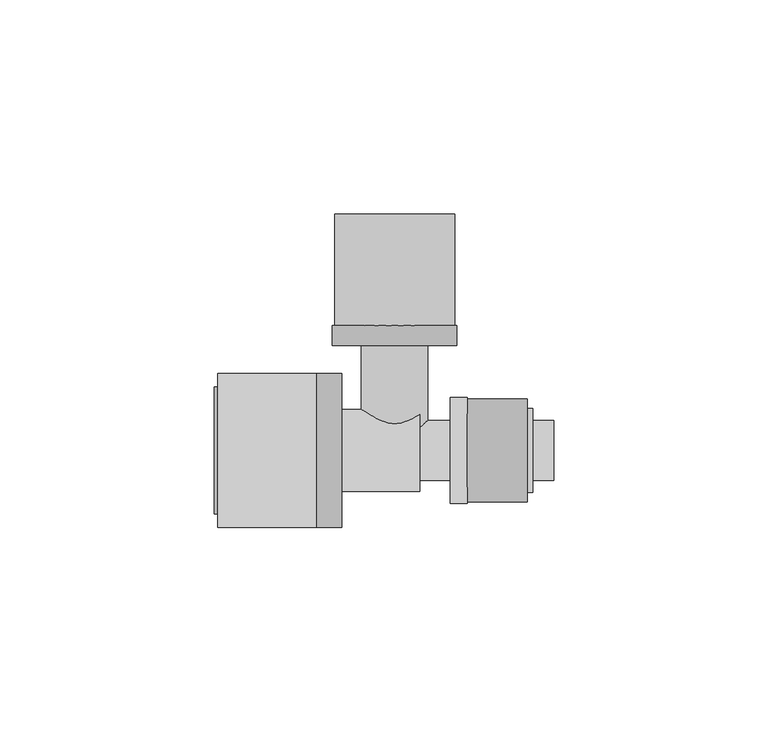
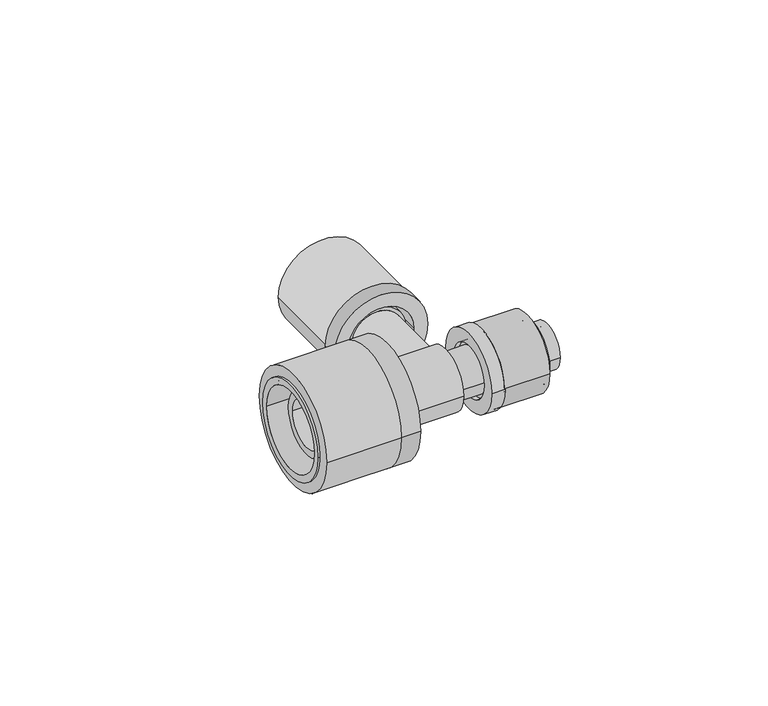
"""IFC4 building model written with IfcOpenShell, lengths in millimetres: pipe fitting geometry, FASTLOC_T-piece_LX : FSL T-Piece LX CZ."""

import ifcopenshell
import ifcopenshell.guid

model = None  # the IFC model being written
_history = None  # IfcOwnerHistory: only IFC2X3 demands one
_inside = {}  # id of a spatial element -> (the spatial element, [elements in it])
_under = {}  # id of a project, library or spatial element -> (it, [spatial elements below it])
_declared = {}  # id of a project -> (the project, [libraries it declares])
_typed = {}  # id of a type object -> (the type object, [elements of that type])
_made_of = {}  # id of a material, layer set ... -> (it, [elements and type objects made of it])


def new_model(schema):
    """Start an empty IFC model of exactly this schema.

    Asked for "IFC4X3", IfcOpenShell would pick the latest addendum, in which some entities
    have other attributes; the version numbers below select the first issue.
    IFC2X3 requires an IfcOwnerHistory on every rooted entity: one is made here for all.
    """
    global model, _history
    if schema == "IFC4X3":
        model = ifcopenshell.file(schema_version=(4, 3, 0, 0))
    else:
        model = ifcopenshell.file(schema=schema)
    _inside.clear()
    _under.clear()
    _declared.clear()
    _typed.clear()
    _made_of.clear()
    _history = None
    if model.schema == "IFC2X3":
        org = make("IfcOrganization", Name="unknown")
        user = make(
            "IfcPersonAndOrganization",
            ThePerson=make("IfcPerson", FamilyName="unknown"),
            TheOrganization=org,
        )
        app = make(
            "IfcApplication",
            ApplicationDeveloper=org,
            Version="unknown",
            ApplicationFullName="unknown",
            ApplicationIdentifier="unknown",
        )
        _history = make(
            "IfcOwnerHistory",
            OwningUser=user,
            OwningApplication=app,
            ChangeAction="ADDED",
            CreationDate=0,
        )
    return model


def make(cls, **values):
    """One entity of the class cls with the attributes given. An attribute that is None is left unset."""
    return model.create_entity(
        cls, **{name: value for name, value in values.items() if value is not None}
    )


def rooted(cls, **values):
    """An entity with a GlobalId (a new one), such as an element, a storey or a relation."""
    return make(cls, GlobalId=ifcopenshell.guid.new(), OwnerHistory=_history, **values)


def si_unit(unit_type, name, prefix=None):
    """IfcSIUnit, for example si_unit("LENGTHUNIT", "METRE", prefix="MILLI")."""
    return make("IfcSIUnit", UnitType=unit_type, Prefix=prefix, Name=name)


def assignment(units):
    """IfcUnitAssignment: the units of a project."""
    return None if units is None else make("IfcUnitAssignment", Units=units)


def point(xyz):
    """IfcCartesianPoint."""
    return None if xyz is None else make("IfcCartesianPoint", Coordinates=xyz)


def direction(xyz):
    """IfcDirection."""
    return None if xyz is None else make("IfcDirection", DirectionRatios=xyz)


def frame(location, z_axis=None, x_axis=None):
    """IfcAxis2Placement3D, a coordinate frame: its origin and axes. An axis left out is left unset."""
    return make(
        "IfcAxis2Placement3D",
        Location=point(location),
        Axis=direction(z_axis),
        RefDirection=direction(x_axis),
    )


def frame_2d(location, x_axis=None):
    """IfcAxis2Placement2D, a coordinate frame in the plane: its origin and x axis."""
    return make(
        "IfcAxis2Placement2D", Location=point(location), RefDirection=direction(x_axis)
    )


def origin():
    """The frame at (0, 0, 0) with its axes left unset."""
    return frame((0.0, 0.0, 0.0))


def origin_2d():
    """The frame at (0, 0) in the plane with its x axis left unset."""
    return frame_2d((0.0, 0.0))


def place(relative_to, where):
    """IfcLocalPlacement: puts the frame where relative to a parent placement (None: the world)."""
    return make(
        "IfcLocalPlacement", PlacementRelTo=relative_to, RelativePlacement=where
    )


def context(
    kind, dimensions, precision=None, world=None, true_north=None, identifier=None
):
    """IfcGeometricRepresentationContext, for example the 3D "Model" context."""
    return make(
        "IfcGeometricRepresentationContext",
        ContextIdentifier=identifier,
        ContextType=kind,
        CoordinateSpaceDimension=dimensions,
        Precision=precision,
        WorldCoordinateSystem=world,
        TrueNorth=true_north,
    )


def project(units=None, contexts=None):
    """IfcProject with its units and contexts."""
    return rooted(
        "IfcProject",
        Name="project",
        RepresentationContexts=contexts,
        UnitsInContext=assignment(units),
    )


def spatial(cls, under=None, at=None, **own):
    """A site, building, storey or space (cls), placed at a placement, below another one or the project."""
    s = rooted(cls, ObjectPlacement=at, **own)
    if under is not None:
        _under.setdefault(under.id(), (under, []))[1].append(s)
    return s


def polyline(points):
    """IfcPolyline through the points."""
    return make("IfcPolyline", Points=[point(p) for p in points])


def circle_curve(where, radius):
    """IfcCircle in the frame where."""
    return make("IfcCircle", Position=where, Radius=radius)


def trimmed(basis, trim1, trim2, sense, master):
    """IfcTrimmedCurve: the piece of a basis curve between two trims."""
    return make(
        "IfcTrimmedCurve",
        BasisCurve=basis,
        Trim1=trim1,
        Trim2=trim2,
        SenseAgreement=sense,
        MasterRepresentation=master,
    )


def segment(curve, same_sense, transition):
    """IfcCompositeCurveSegment."""
    return make(
        "IfcCompositeCurveSegment",
        Transition=transition,
        SameSense=same_sense,
        ParentCurve=curve,
    )


def composite_curve(segments, self_intersect=None):
    """IfcCompositeCurve: segments joined end to end."""
    return make("IfcCompositeCurve", Segments=segments, SelfIntersect=self_intersect)


def outline(outer, holes=None, kind="AREA"):
    """IfcArbitraryClosedProfileDef: a profile drawn as a closed curve; with holes, ...WithVoids."""
    if holes is None:
        return make("IfcArbitraryClosedProfileDef", ProfileType=kind, OuterCurve=outer)
    return make(
        "IfcArbitraryProfileDefWithVoids",
        ProfileType=kind,
        OuterCurve=outer,
        InnerCurves=holes,
    )


def extrude(swept, where, along, depth):
    """IfcExtrudedAreaSolid: the profile swept, set in the frame where, extruded along a direction by depth."""
    return make(
        "IfcExtrudedAreaSolid",
        SweptArea=swept,
        Position=where,
        ExtrudedDirection=direction(along),
        Depth=depth,
    )


def shape(context_of_items, identifier, shape_type, items):
    """IfcShapeRepresentation: the items that make up one representation, for example the "Body"."""
    return make(
        "IfcShapeRepresentation",
        ContextOfItems=context_of_items,
        RepresentationIdentifier=identifier,
        RepresentationType=shape_type,
        Items=items,
    )


def source(mapping_origin, context_of_items, identifier, shape_type, items):
    """IfcRepresentationMap: a shape defined once, which mapped items show again and again."""
    return make(
        "IfcRepresentationMap",
        MappingOrigin=mapping_origin,
        MappedRepresentation=shape(context_of_items, identifier, shape_type, items),
    )


def transform(
    local_origin,
    x_axis=None,
    y_axis=None,
    z_axis=None,
    scale=None,
    scale2=None,
    scale3=None,
    uniform=True,
):
    """IfcCartesianTransformationOperator3D, or its non-uniform kind. x_axis, y_axis, z_axis: its Axis1, 2, 3."""
    if uniform:
        return make(
            "IfcCartesianTransformationOperator3D",
            Axis1=direction(x_axis),
            Axis2=direction(y_axis),
            LocalOrigin=point(local_origin),
            Scale=scale,
            Axis3=direction(z_axis),
        )
    return make(
        "IfcCartesianTransformationOperator3DnonUniform",
        Axis1=direction(x_axis),
        Axis2=direction(y_axis),
        LocalOrigin=point(local_origin),
        Scale=scale,
        Axis3=direction(z_axis),
        Scale2=scale2,
        Scale3=scale3,
    )


def mapped(mapping_source, mapping_target):
    """IfcMappedItem: shows the shape of a source again, moved by a transform."""
    return make(
        "IfcMappedItem", MappingSource=mapping_source, MappingTarget=mapping_target
    )


def made_of(thing, what):
    """Note that an element or type object is made of a material, layer set ...; save() writes the relation."""
    if what is not None:
        _made_of.setdefault(what.id(), (what, []))[1].append(thing)
    return thing


def element(
    cls,
    number,
    at=None,
    inside=None,
    cuts=None,
    type_object=None,
    material=None,
    context=None,
    identifier="Body",
    shape_type=None,
    held_by="IfcProductDefinitionShape",
    body=None,
    shapes=None,
    **own,
):
    """One element of the class cls, such as IfcWall. Its Tag is "e" and its number.

    at: its placement. inside: the storey or other place that contains it. cuts: it is an
    opening in that element (IfcRelVoidsElement). A single representation is given by context,
    identifier, shape_type and body (its items); several are given by shapes. held_by: the class
    of the entity that holds the representations. save() writes the other relations.
    """
    e = rooted(cls, Tag="e%d" % number, ObjectPlacement=at, **own)
    if body is not None:
        shapes = [shape(context, identifier, shape_type, body)]
    if shapes is not None:
        e.Representation = make(held_by, Representations=shapes)
    if inside is not None:
        _inside.setdefault(inside.id(), (inside, []))[1].append(e)
    if cuts is not None:
        rooted(
            "IfcRelVoidsElement", RelatingBuildingElement=cuts, RelatedOpeningElement=e
        )
    if type_object is not None:
        _typed.setdefault(type_object.id(), (type_object, []))[1].append(e)
    return made_of(e, material)


def aggregate(whole, parts):
    """IfcRelAggregates: a whole, such as a stair, and the parts it consists of."""
    return rooted("IfcRelAggregates", RelatingObject=whole, RelatedObjects=parts)


def save(model, path):
    """Write the relations noted so far, then the file.

    IfcRelAggregates (storeys below a building ...), IfcRelContainedInSpatialStructure (elements
    in a storey), IfcRelDefinesByType, IfcRelAssociatesMaterial and IfcRelDeclares: one each for
    every whole, place, type object, material and project.
    """
    for whole, parts in _under.values():
        aggregate(whole, parts)
    for where, things in _inside.values():
        rooted(
            "IfcRelContainedInSpatialStructure",
            RelatedElements=things,
            RelatingStructure=where,
        )
    for kind, things in _typed.values():
        rooted("IfcRelDefinesByType", RelatedObjects=things, RelatingType=kind)
    for what, things in _made_of.values():
        rooted("IfcRelAssociatesMaterial", RelatedObjects=things, RelatingMaterial=what)
    for by, libraries in _declared.values():
        rooted("IfcRelDeclares", RelatingContext=by, RelatedDefinitions=libraries)
    model.write(path)


def plane_surface(at):
    """IfcPlane: the flat surface through the origin of the frame at, square to its z axis."""
    return make("IfcPlane", Position=at)


def cylinder_surface(at, radius):
    """IfcCylindricalSurface: all points at the distance radius from the z axis of the frame at."""
    return make("IfcCylindricalSurface", Position=at, Radius=radius)


def revolved_surface(curve, axis_point, axis_direction):
    """IfcSurfaceOfRevolution: the curve turned about the line through axis_point along axis_direction."""
    return make(
        "IfcSurfaceOfRevolution",
        SweptCurve=make("IfcArbitraryOpenProfileDef", ProfileType="CURVE", Curve=curve),
        AxisPosition=make("IfcAxis1Placement", Location=point(axis_point), Axis=direction(axis_direction)),
    )


def advanced_brep(points, edges, surfaces, faces):
    """IfcAdvancedBrep: a solid bounded by faces that lie on surfaces and meet in shared edges.

    An edge is (start, end): straight between two places in points (the first is 0);
    or (start, end, curve); or (start, end, curve, False) where it runs against its curve.
    A face is (place in surfaces, loops), or (place, loops, False) where it looks against
    its surface's normal. A loop lists edges by number (the first is 1), with a minus sign
    where the edge is run from its end to its start. The first loop is the outer one.
    """
    corners = [point(p) for p in points]
    vertices = [make("IfcVertexPoint", VertexGeometry=c) for c in corners]
    made = []
    for start, end, *more in edges:
        made.append(
            make(
                "IfcEdgeCurve",
                EdgeStart=vertices[start],
                EdgeEnd=vertices[end],
                EdgeGeometry=more[0] if more else make("IfcPolyline", Points=[corners[start], corners[end]]),
                SameSense=more[1] if len(more) > 1 else True,
            )
        )
    hull = []
    for where, loops, *sense in faces:
        bounds = []
        for j, loop in enumerate(loops):
            ring = [make("IfcOrientedEdge", EdgeElement=made[abs(k) - 1], Orientation=k > 0) for k in loop]
            bounds.append(
                make(
                    "IfcFaceOuterBound" if j == 0 else "IfcFaceBound",
                    Bound=make("IfcEdgeLoop", EdgeList=ring),
                    Orientation=True,
                )
            )
        hull.append(make("IfcAdvancedFace", Bounds=bounds, FaceSurface=surfaces[where], SameSense=sense[0] if sense else True))
    return make("IfcAdvancedBrep", Outer=make("IfcClosedShell", CfsFaces=hull))


def pipe_fitting_e638986c(model_context):
    return source(origin(), model_context, "Body", "SolidModel", [
        extrude(outline(composite_curve([segment(trimmed(circle_curve(origin_2d(), 12.0), [point((-12.0, 0.0))], [point((12.0, 0.0))], False, "CARTESIAN"), True, "CONTINUOUS"), segment(trimmed(circle_curve(origin_2d(), 12.0), [point((12.0, 0.0))], [point((-12.0, 0.0))], False, "CARTESIAN"), True, "CONTINUOUS")], self_intersect=False), holes=[composite_curve([segment(trimmed(circle_curve(origin_2d(), 8.85), [point((-8.85, 0.0))], [point((8.85, 0.0))], True, "CARTESIAN"), True, "CONTINUOUS"), segment(trimmed(circle_curve(origin_2d(), 8.85), [point((8.85, 0.0))], [point((-8.85, 0.0))], True, "CARTESIAN"), True, "CONTINUOUS")], self_intersect=False)]), frame((17.0, 0.0, 0.0), z_axis=(1.0, 0.0, 0.0), x_axis=(0.0, 1.0, 0.0)), (0.0, 0.0, 1.0), 14.0),
        advanced_brep(
        [(17.0, 12.35, 0.0), (17.0, -12.35, 0.0), (13.0, -12.35, 0.0), (13.0, 12.35, 0.0), (32.3, 9.85, 0.0), (32.3, -9.85, 0.0), (17.0, -9.85, 0.0), (17.0, 9.85, 0.0), (13.0, 8.15, 0.0), (13.0, -8.15, 0.0), (32.3, -8.15, 0.0), (32.3, 8.15, 0.0)],
        [
            (0, 1, circle_curve(frame((17.0, 0.0, 0.0), z_axis=(-1.0, 0.0, 0.0), x_axis=(0.0, -1.0, 0.0)), 12.35)),
            (1, 2),
            (2, 3, circle_curve(frame((13.0, 0.0, 0.0), z_axis=(1.0, 0.0, 0.0), x_axis=(0.0, -1.0, 0.0)), 12.35)),
            (3, 0),
            (4, 5, circle_curve(frame((32.3, 0.0, 0.0), z_axis=(-1.0, 0.0, 0.0), x_axis=(0.0, -1.0, 0.0)), 9.85)),
            (5, 6),
            (6, 7, circle_curve(frame((17.0, 0.0, 0.0), z_axis=(1.0, 0.0, 0.0), x_axis=(0.0, -1.0, 0.0)), 9.85)),
            (7, 4),
            (8, 9, circle_curve(frame((13.0, 0.0, 0.0), z_axis=(-1.0, 0.0, 0.0), x_axis=(0.0, -1.0, 0.0)), 8.15)),
            (9, 10),
            (10, 11, circle_curve(frame((32.3, 0.0, 0.0), z_axis=(1.0, 0.0, 0.0), x_axis=(0.0, -1.0, 0.0)), 8.15)),
            (11, 8),
            (1, 0, circle_curve(frame((17.0, 0.0, 0.0), z_axis=(-1.0, 0.0, 0.0), x_axis=(0.0, 1.0, 0.0)), 12.35)),
            (3, 2, circle_curve(frame((13.0, 0.0, 0.0), z_axis=(1.0, 0.0, 0.0), x_axis=(0.0, 1.0, 0.0)), 12.35)),
            (6, 7, circle_curve(frame((17.0, 0.0, 0.0), z_axis=(-1.0, 0.0, 0.0), x_axis=(0.0, 1.0, 0.0)), 9.85)),
            (5, 4, circle_curve(frame((32.3, 0.0, 0.0), z_axis=(-1.0, 0.0, 0.0), x_axis=(0.0, 1.0, 0.0)), 9.85)),
            (10, 11, circle_curve(frame((32.3, 0.0, 0.0), z_axis=(-1.0, 0.0, 0.0), x_axis=(0.0, 1.0, 0.0)), 8.15)),
            (9, 8, circle_curve(frame((13.0, 0.0, 0.0), z_axis=(-1.0, 0.0, 0.0), x_axis=(0.0, 1.0, 0.0)), 8.15)),
        ],
        [
            cylinder_surface(frame((13.0, 0.0, 0.0), z_axis=(1.0, 0.0, 0.0), x_axis=(0.0, -1.0, 0.0)), 12.35),
            cylinder_surface(frame((13.0, 0.0, 0.0), z_axis=(1.0, 0.0, 0.0), x_axis=(0.0, -1.0, 0.0)), 9.85),
            revolved_surface(polyline([(32.3, -8.15, 0.0), (13.0, -8.15, 0.0)]), (13.0, 0.0, 0.0), (1.0, 0.0, 0.0)),
            cylinder_surface(frame((13.0, 0.0, 0.0), z_axis=(1.0, 0.0, 0.0), x_axis=(0.0, 1.0, 0.0)), 12.35),
            plane_surface(frame((17.0, 0.0, 0.0), z_axis=(1.0, 0.0, 0.0), x_axis=(0.0, 1.0, 0.0))),
            cylinder_surface(frame((13.0, 0.0, 0.0), z_axis=(1.0, 0.0, 0.0), x_axis=(0.0, 1.0, 0.0)), 9.85),
            plane_surface(frame((32.3, 0.0, 0.0), z_axis=(1.0, 0.0, 0.0), x_axis=(0.0, 1.0, 0.0))),
            revolved_surface(polyline([(32.3, 8.15, 0.0), (13.0, 8.15, 0.0)]), (13.0, 0.0, 0.0), (1.0, 0.0, 0.0)),
            plane_surface(frame((13.0, 0.0, 0.0), z_axis=(-1.0, 0.0, 0.0), x_axis=(0.0, 1.0, 0.0))),
        ],
        [
            (0, [[1, 2, 3, 4]]),
            (1, [[5, 6, 7, 8]]),
            (2, [[9, 10, 11, 12]]),
            (3, [[13, -4, 14, -2]]),
            (4, [[-13, -1], [15, -7]]),
            (5, [[16, -8, -15, -6]]),
            (6, [[-16, -5], [17, -11]]),
            (7, [[18, -12, -17, -10]]),
            (8, [[-14, -3], [-18, -9]]),
        ],
    ),
        extrude(outline(composite_curve([segment(trimmed(circle_curve(origin_2d(), 18.0), [point((18.0, 0.0))], [point((-18.0, 0.0))], False, "CARTESIAN"), True, "CONTINUOUS"), segment(trimmed(circle_curve(origin_2d(), 18.0), [point((-18.0, 0.0))], [point((18.0, 0.0))], False, "CARTESIAN"), True, "CONTINUOUS")], self_intersect=False), holes=[composite_curve([segment(trimmed(circle_curve(origin_2d(), 13.5), [point((13.5, 0.0))], [point((-13.5, 0.0))], True, "CARTESIAN"), True, "CONTINUOUS"), segment(trimmed(circle_curve(origin_2d(), 13.5), [point((-13.5, 0.0))], [point((13.5, 0.0))], True, "CARTESIAN"), True, "CONTINUOUS")], self_intersect=False)]), frame((-41.3, 0.0, 0.0), z_axis=(1.0, 0.0, 0.0), x_axis=(0.0, 1.0, 0.0)), (0.0, 0.0, 1.0), 23.0),
        advanced_brep(
        [(-18.3, -18.0, 0.0), (-18.3, 18.0, 0.0), (-12.3, 18.0, 0.0), (-12.3, -18.0, 0.0), (-42.1, -14.85, 0.0), (-42.1, 14.85, 0.0), (-18.3, 14.85, 0.0), (-18.3, -14.85, 0.0), (-12.3, -12.65, 0.0), (-12.3, 12.65, 0.0), (-42.1, 12.65, 0.0), (-42.1, -12.65, 0.0)],
        [
            (0, 1, circle_curve(frame((-18.3, 0.0, 0.0), z_axis=(1.0, 0.0, 0.0), x_axis=(0.0, 1.0, 0.0)), 18.0)),
            (1, 2),
            (2, 3, circle_curve(frame((-12.3, 0.0, 0.0), z_axis=(-1.0, 0.0, 0.0), x_axis=(0.0, 1.0, 0.0)), 18.0)),
            (3, 0),
            (4, 5, circle_curve(frame((-42.1, 0.0, 0.0), z_axis=(1.0, 0.0, 0.0), x_axis=(0.0, 1.0, 0.0)), 14.85)),
            (5, 6),
            (6, 7, circle_curve(frame((-18.3, 0.0, 0.0), z_axis=(-1.0, 0.0, 0.0), x_axis=(0.0, 1.0, 0.0)), 14.85)),
            (7, 4),
            (8, 9, circle_curve(frame((-12.3, 0.0, 0.0), z_axis=(1.0, 0.0, 0.0), x_axis=(0.0, 1.0, 0.0)), 12.65)),
            (9, 10),
            (10, 11, circle_curve(frame((-42.1, 0.0, 0.0), z_axis=(-1.0, 0.0, 0.0), x_axis=(0.0, 1.0, 0.0)), 12.65)),
            (11, 8),
            (1, 0, circle_curve(frame((-18.3, 0.0, 0.0), z_axis=(1.0, 0.0, 0.0), x_axis=(0.0, -1.0, 0.0)), 18.0)),
            (3, 2, circle_curve(frame((-12.3, 0.0, 0.0), z_axis=(-1.0, 0.0, 0.0), x_axis=(0.0, -1.0, 0.0)), 18.0)),
            (6, 7, circle_curve(frame((-18.3, 0.0, 0.0), z_axis=(1.0, 0.0, 0.0), x_axis=(0.0, -1.0, 0.0)), 14.85)),
            (5, 4, circle_curve(frame((-42.1, 0.0, 0.0), z_axis=(1.0, 0.0, 0.0), x_axis=(0.0, -1.0, 0.0)), 14.85)),
            (10, 11, circle_curve(frame((-42.1, 0.0, 0.0), z_axis=(1.0, 0.0, 0.0), x_axis=(0.0, -1.0, 0.0)), 12.65)),
            (9, 8, circle_curve(frame((-12.3, 0.0, 0.0), z_axis=(1.0, 0.0, 0.0), x_axis=(0.0, -1.0, 0.0)), 12.65)),
        ],
        [
            cylinder_surface(frame((-12.3, 0.0, 0.0), z_axis=(-1.0, 0.0, 0.0), x_axis=(0.0, 1.0, 0.0)), 18.0),
            cylinder_surface(frame((-12.3, 0.0, 0.0), z_axis=(-1.0, 0.0, 0.0), x_axis=(0.0, 1.0, 0.0)), 14.85),
            revolved_surface(polyline([(-42.1, 12.65, 0.0), (-12.3, 12.65, 0.0)]), (-12.3, 0.0, 0.0), (-1.0, 0.0, 0.0)),
            cylinder_surface(frame((-12.3, 0.0, 0.0), z_axis=(-1.0, 0.0, 0.0), x_axis=(0.0, -1.0, 0.0)), 18.0),
            plane_surface(frame((-18.3, 0.0, 0.0), z_axis=(-1.0, 0.0, 0.0), x_axis=(0.0, -1.0, 0.0))),
            cylinder_surface(frame((-12.3, 0.0, 0.0), z_axis=(-1.0, 0.0, 0.0), x_axis=(0.0, -1.0, 0.0)), 14.85),
            plane_surface(frame((-42.1, 0.0, 0.0), z_axis=(-1.0, 0.0, 0.0), x_axis=(0.0, -1.0, 0.0))),
            revolved_surface(polyline([(-42.1, -12.65, 0.0), (-12.3, -12.65, 0.0)]), (-12.3, 0.0, 0.0), (-1.0, 0.0, 0.0)),
            plane_surface(frame((-12.3, 0.0, 0.0), z_axis=(1.0, 0.0, 0.0), x_axis=(0.0, -1.0, 0.0))),
        ],
        [
            (0, [[1, 2, 3, 4]]),
            (1, [[5, 6, 7, 8]]),
            (2, [[9, 10, 11, 12]]),
            (3, [[13, -4, 14, -2]]),
            (4, [[-13, -1], [15, -7]]),
            (5, [[16, -8, -15, -6]]),
            (6, [[-16, -5], [17, -11]]),
            (7, [[18, -12, -17, -10]]),
            (8, [[-14, -3], [-18, -9]]),
        ],
    ),
        extrude(outline(composite_curve([segment(trimmed(circle_curve(origin_2d(), 14.0), [point((0.0, 14.0))], [point((0.0, -14.0))], False, "CARTESIAN"), True, "CONTINUOUS"), segment(trimmed(circle_curve(origin_2d(), 14.0), [point((0.0, -14.0))], [point((0.0, 14.0))], False, "CARTESIAN"), True, "CONTINUOUS")], self_intersect=False), holes=[composite_curve([segment(trimmed(circle_curve(origin_2d(), 10.7), [point((0.0, 10.7))], [point((0.0, -10.7))], True, "CARTESIAN"), True, "CONTINUOUS"), segment(trimmed(circle_curve(origin_2d(), 10.7), [point((0.0, -10.7))], [point((0.0, 10.7))], True, "CARTESIAN"), True, "CONTINUOUS")], self_intersect=False)]), frame((0.0, 29.2, 0.0), z_axis=(0.0, 1.0, 0.0), x_axis=(0.0, 0.0, 1.0)), (0.0, 0.0, 1.0), 26.0),
        advanced_brep(
        [(-14.5, 29.2, 0.0), (14.5, 29.2, 0.0), (14.5, 24.5, 0.0), (-14.5, 24.5, 0.0), (-11.85, 46.2, 0.0), (11.85, 46.2, 0.0), (11.85, 29.2, 0.0), (-11.85, 29.2, 0.0), (-10.15, 24.5, 0.0), (10.15, 24.5, 0.0), (10.15, 46.2, 0.0), (-10.15, 46.2, 0.0)],
        [
            (0, 1, circle_curve(frame((0.0, 29.2, 0.0), z_axis=(0.0, -1.0, 0.0), x_axis=(1.0, 0.0, 0.0)), 14.5)),
            (1, 2),
            (2, 3, circle_curve(frame((0.0, 24.5, 0.0), z_axis=(0.0, 1.0, 0.0), x_axis=(1.0, 0.0, 0.0)), 14.5)),
            (3, 0),
            (4, 5, circle_curve(frame((0.0, 46.2, 0.0), z_axis=(0.0, -1.0, 0.0), x_axis=(1.0, 0.0, 0.0)), 11.85)),
            (5, 6),
            (6, 7, circle_curve(frame((0.0, 29.2, 0.0), z_axis=(0.0, 1.0, 0.0), x_axis=(1.0, 0.0, 0.0)), 11.85)),
            (7, 4),
            (8, 9, circle_curve(frame((0.0, 24.5, 0.0), z_axis=(0.0, -1.0, 0.0), x_axis=(1.0, 0.0, 0.0)), 10.15)),
            (9, 10),
            (10, 11, circle_curve(frame((0.0, 46.2, 0.0), z_axis=(0.0, 1.0, 0.0), x_axis=(1.0, 0.0, 0.0)), 10.15)),
            (11, 8),
            (1, 0, circle_curve(frame((0.0, 29.2, 0.0), z_axis=(0.0, -1.0, 0.0), x_axis=(-1.0, 0.0, 0.0)), 14.5)),
            (3, 2, circle_curve(frame((0.0, 24.5, 0.0), z_axis=(0.0, 1.0, 0.0), x_axis=(-1.0, 0.0, 0.0)), 14.5)),
            (6, 7, circle_curve(frame((0.0, 29.2, 0.0), z_axis=(0.0, -1.0, 0.0), x_axis=(-1.0, 0.0, 0.0)), 11.85)),
            (5, 4, circle_curve(frame((0.0, 46.2, 0.0), z_axis=(0.0, -1.0, 0.0), x_axis=(-1.0, 0.0, 0.0)), 11.85)),
            (10, 11, circle_curve(frame((0.0, 46.2, 0.0), z_axis=(0.0, -1.0, 0.0), x_axis=(-1.0, 0.0, 0.0)), 10.15)),
            (9, 8, circle_curve(frame((0.0, 24.5, 0.0), z_axis=(0.0, -1.0, 0.0), x_axis=(-1.0, 0.0, 0.0)), 10.15)),
        ],
        [
            cylinder_surface(frame((0.0, 24.5, 0.0), z_axis=(0.0, 1.0, 0.0), x_axis=(1.0, 0.0, 0.0)), 14.5),
            cylinder_surface(frame((0.0, 24.5, 0.0), z_axis=(0.0, 1.0, 0.0), x_axis=(1.0, 0.0, 0.0)), 11.85),
            revolved_surface(polyline([(10.15, 46.2, 0.0), (10.15, 24.5, 0.0)]), (0.0, 24.5, 0.0), (0.0, 1.0, 0.0)),
            cylinder_surface(frame((0.0, 24.5, 0.0), z_axis=(0.0, 1.0, 0.0), x_axis=(-1.0, 0.0, 0.0)), 14.5),
            plane_surface(frame((0.0, 29.2, 0.0), z_axis=(0.0, 1.0, 0.0), x_axis=(-1.0, 0.0, 0.0))),
            cylinder_surface(frame((0.0, 24.5, 0.0), z_axis=(0.0, 1.0, 0.0), x_axis=(-1.0, 0.0, 0.0)), 11.85),
            plane_surface(frame((0.0, 46.2, 0.0), z_axis=(0.0, 1.0, 0.0), x_axis=(-1.0, 0.0, 0.0))),
            revolved_surface(polyline([(-10.15, 46.2, 0.0), (-10.15, 24.5, 0.0)]), (0.0, 24.5, 0.0), (0.0, 1.0, 0.0)),
            plane_surface(frame((0.0, 24.5, 0.0), z_axis=(0.0, -1.0, 0.0), x_axis=(-1.0, 0.0, 0.0))),
        ],
        [
            (0, [[1, 2, 3, 4]]),
            (1, [[5, 6, 7, 8]]),
            (2, [[9, 10, 11, 12]]),
            (3, [[13, -4, 14, -2]]),
            (4, [[-13, -1], [15, -7]]),
            (5, [[16, -8, -15, -6]]),
            (6, [[-16, -5], [17, -11]]),
            (7, [[18, -12, -17, -10]]),
            (8, [[-14, -3], [-18, -9]]),
        ],
    ),
        advanced_brep(
        [(14.29, 6.95, 0.0), (14.29, -6.95, 0.0), (5.85, -6.95, 0.0), (5.85, 6.95, 0.0), (17.0, 8.05, 0.0), (17.0, -8.05, 0.0), (14.29, -8.05, 0.0), (14.29, 8.05, 0.0), (37.15, 6.95, 0.0), (37.15, -6.95, 0.0), (17.0, -6.95, 0.0), (17.0, 6.95, 0.0), (4.0, 5.1, 0.0), (4.0, -5.1, 0.0), (37.15, -5.1, 0.0), (37.15, 5.1, 0.0), (-37.15, 7.35, 0.0), (-37.15, -7.35, 0.0), (4.0, -7.35, 0.0), (4.0, 7.35, 0.0), (-18.3, 9.6, 0.0), (-18.3, -9.6, 0.0), (-37.15, -9.6, 0.0), (-37.15, 9.6, 0.0), (-15.5, 11.1, 0.0), (-15.5, -11.1, 0.0), (-18.3, -11.1, 0.0), (-18.3, 11.1, 0.0), (5.85, 9.6, 0.0), (5.85, -9.6, 0.0), (-15.5, -9.6, 0.0), (-15.5, 9.6, 0.0)],
        [
            (0, 1, circle_curve(frame((14.29, 0.0, 0.0), z_axis=(-1.0, 0.0, 0.0), x_axis=(0.0, -1.0, 0.0)), 6.95)),
            (1, 2),
            (2, 3, circle_curve(frame((5.85, 0.0, 0.0), z_axis=(1.0, 0.0, 0.0), x_axis=(0.0, -1.0, 0.0)), 6.95)),
            (3, 0),
            (4, 5, circle_curve(frame((17.0, 0.0, 0.0), z_axis=(-1.0, 0.0, 0.0), x_axis=(0.0, -1.0, 0.0)), 8.05)),
            (5, 6),
            (6, 7, circle_curve(frame((14.29, 0.0, 0.0), z_axis=(1.0, 0.0, 0.0), x_axis=(0.0, -1.0, 0.0)), 8.05)),
            (7, 4),
            (8, 9, circle_curve(frame((37.15, 0.0, 0.0), z_axis=(-1.0, 0.0, 0.0), x_axis=(0.0, -1.0, 0.0)), 6.95)),
            (9, 10),
            (10, 11, circle_curve(frame((17.0, 0.0, 0.0), z_axis=(1.0, 0.0, 0.0), x_axis=(0.0, -1.0, 0.0)), 6.95)),
            (11, 8),
            (12, 13, circle_curve(frame((4.0, 0.0, 0.0), z_axis=(-1.0, 0.0, 0.0), x_axis=(0.0, -1.0, 0.0)), 5.1)),
            (13, 14),
            (14, 15, circle_curve(frame((37.15, 0.0, 0.0), z_axis=(1.0, 0.0, 0.0), x_axis=(0.0, -1.0, 0.0)), 5.1)),
            (15, 12),
            (16, 17, circle_curve(frame((-37.15, 0.0, 0.0), z_axis=(-1.0, 0.0, 0.0), x_axis=(0.0, -1.0, 0.0)), 7.35)),
            (17, 18),
            (18, 19, circle_curve(frame((4.0, 0.0, 0.0), z_axis=(1.0, 0.0, 0.0), x_axis=(0.0, -1.0, 0.0)), 7.35)),
            (19, 16),
            (20, 21, circle_curve(frame((-18.3, 0.0, 0.0), z_axis=(-1.0, 0.0, 0.0), x_axis=(0.0, -1.0, 0.0)), 9.6)),
            (21, 22),
            (22, 23, circle_curve(frame((-37.15, 0.0, 0.0), z_axis=(1.0, 0.0, 0.0), x_axis=(0.0, -1.0, 0.0)), 9.6)),
            (23, 20),
            (24, 25, circle_curve(frame((-15.5, 0.0, 0.0), z_axis=(-1.0, 0.0, 0.0), x_axis=(0.0, -1.0, 0.0)), 11.1)),
            (25, 26),
            (26, 27, circle_curve(frame((-18.3, 0.0, 0.0), z_axis=(1.0, 0.0, 0.0), x_axis=(0.0, -1.0, 0.0)), 11.1)),
            (27, 24),
            (28, 29, circle_curve(frame((5.85, 0.0, 0.0), z_axis=(-1.0, 0.0, 0.0), x_axis=(0.0, -1.0, 0.0)), 9.6)),
            (29, 30),
            (30, 31, circle_curve(frame((-15.5, 0.0, 0.0), z_axis=(1.0, 0.0, 0.0), x_axis=(0.0, -1.0, 0.0)), 9.6)),
            (31, 28),
            (28, 29, circle_curve(frame((5.85, 0.0, 0.0), z_axis=(1.0, 0.0, 0.0), x_axis=(0.0, 1.0, 0.0)), 9.6)),
            (2, 3, circle_curve(frame((5.85, 0.0, 0.0), z_axis=(-1.0, 0.0, 0.0), x_axis=(0.0, 1.0, 0.0)), 6.95)),
            (1, 0, circle_curve(frame((14.29, 0.0, 0.0), z_axis=(-1.0, 0.0, 0.0), x_axis=(0.0, 1.0, 0.0)), 6.95)),
            (6, 7, circle_curve(frame((14.29, 0.0, 0.0), z_axis=(-1.0, 0.0, 0.0), x_axis=(0.0, 1.0, 0.0)), 8.05)),
            (5, 4, circle_curve(frame((17.0, 0.0, 0.0), z_axis=(-1.0, 0.0, 0.0), x_axis=(0.0, 1.0, 0.0)), 8.05)),
            (10, 11, circle_curve(frame((17.0, 0.0, 0.0), z_axis=(-1.0, 0.0, 0.0), x_axis=(0.0, 1.0, 0.0)), 6.95)),
            (9, 8, circle_curve(frame((37.15, 0.0, 0.0), z_axis=(-1.0, 0.0, 0.0), x_axis=(0.0, 1.0, 0.0)), 6.95)),
            (14, 15, circle_curve(frame((37.15, 0.0, 0.0), z_axis=(-1.0, 0.0, 0.0), x_axis=(0.0, 1.0, 0.0)), 5.1)),
            (13, 12, circle_curve(frame((4.0, 0.0, 0.0), z_axis=(-1.0, 0.0, 0.0), x_axis=(0.0, 1.0, 0.0)), 5.1)),
            (18, 19, circle_curve(frame((4.0, 0.0, 0.0), z_axis=(-1.0, 0.0, 0.0), x_axis=(0.0, 1.0, 0.0)), 7.35)),
            (17, 16, circle_curve(frame((-37.15, 0.0, 0.0), z_axis=(-1.0, 0.0, 0.0), x_axis=(0.0, 1.0, 0.0)), 7.35)),
            (22, 23, circle_curve(frame((-37.15, 0.0, 0.0), z_axis=(-1.0, 0.0, 0.0), x_axis=(0.0, 1.0, 0.0)), 9.6)),
            (21, 20, circle_curve(frame((-18.3, 0.0, 0.0), z_axis=(-1.0, 0.0, 0.0), x_axis=(0.0, 1.0, 0.0)), 9.6)),
            (26, 27, circle_curve(frame((-18.3, 0.0, 0.0), z_axis=(-1.0, 0.0, 0.0), x_axis=(0.0, 1.0, 0.0)), 11.1)),
            (25, 24, circle_curve(frame((-15.5, 0.0, 0.0), z_axis=(-1.0, 0.0, 0.0), x_axis=(0.0, 1.0, 0.0)), 11.1)),
            (30, 31, circle_curve(frame((-15.5, 0.0, 0.0), z_axis=(-1.0, 0.0, 0.0), x_axis=(0.0, 1.0, 0.0)), 9.6)),
        ],
        [
            cylinder_surface(frame((0.0, 0.0, 0.0), z_axis=(1.0, 0.0, 0.0), x_axis=(0.0, -1.0, 0.0)), 6.95),
            cylinder_surface(frame((0.0, 0.0, 0.0), z_axis=(1.0, 0.0, 0.0), x_axis=(0.0, -1.0, 0.0)), 8.05),
            revolved_surface(polyline([(37.15, -5.1, 0.0), (4.0, -5.1, 0.0)]), (0.0, 0.0, 0.0), (1.0, 0.0, 0.0)),
            revolved_surface(polyline([(4.0, -7.35, 0.0), (-37.15, -7.35, 0.0)]), (0.0, 0.0, 0.0), (1.0, 0.0, 0.0)),
            cylinder_surface(frame((0.0, 0.0, 0.0), z_axis=(1.0, 0.0, 0.0), x_axis=(0.0, -1.0, 0.0)), 9.6),
            cylinder_surface(frame((0.0, 0.0, 0.0), z_axis=(1.0, 0.0, 0.0), x_axis=(0.0, -1.0, 0.0)), 11.1),
            plane_surface(frame((5.85, 0.0, 0.0), z_axis=(1.0, 0.0, 0.0), x_axis=(0.0, 1.0, 0.0))),
            cylinder_surface(frame((0.0, 0.0, 0.0), z_axis=(1.0, 0.0, 0.0), x_axis=(0.0, 1.0, 0.0)), 6.95),
            plane_surface(frame((14.29, 0.0, 0.0), z_axis=(-1.0, 0.0, 0.0), x_axis=(0.0, 1.0, 0.0))),
            cylinder_surface(frame((0.0, 0.0, 0.0), z_axis=(1.0, 0.0, 0.0), x_axis=(0.0, 1.0, 0.0)), 8.05),
            plane_surface(frame((17.0, 0.0, 0.0), z_axis=(1.0, 0.0, 0.0), x_axis=(0.0, 1.0, 0.0))),
            plane_surface(frame((37.15, 0.0, 0.0), z_axis=(1.0, 0.0, 0.0), x_axis=(0.0, 1.0, 0.0))),
            revolved_surface(polyline([(37.15, 5.1, 0.0), (4.0, 5.1, 0.0)]), (0.0, 0.0, 0.0), (1.0, 0.0, 0.0)),
            plane_surface(frame((4.0, 0.0, 0.0), z_axis=(-1.0, 0.0, 0.0), x_axis=(0.0, 1.0, 0.0))),
            revolved_surface(polyline([(4.0, 7.35, 0.0), (-37.15, 7.35, 0.0)]), (0.0, 0.0, 0.0), (1.0, 0.0, 0.0)),
            plane_surface(frame((-37.15, 0.0, 0.0), z_axis=(-1.0, 0.0, 0.0), x_axis=(0.0, 1.0, 0.0))),
            cylinder_surface(frame((0.0, 0.0, 0.0), z_axis=(1.0, 0.0, 0.0), x_axis=(0.0, 1.0, 0.0)), 9.6),
            plane_surface(frame((-18.3, 0.0, 0.0), z_axis=(-1.0, 0.0, 0.0), x_axis=(0.0, 1.0, 0.0))),
            cylinder_surface(frame((0.0, 0.0, 0.0), z_axis=(1.0, 0.0, 0.0), x_axis=(0.0, 1.0, 0.0)), 11.1),
            plane_surface(frame((-15.5, 0.0, 0.0), z_axis=(1.0, 0.0, 0.0), x_axis=(0.0, 1.0, 0.0))),
        ],
        [
            (0, [[1, 2, 3, 4]]),
            (1, [[5, 6, 7, 8]]),
            (0, [[9, 10, 11, 12]]),
            (2, [[13, 14, 15, 16]]),
            (3, [[17, 18, 19, 20]]),
            (4, [[21, 22, 23, 24]]),
            (5, [[25, 26, 27, 28]]),
            (4, [[29, 30, 31, 32]]),
            (6, [[33, -29], [34, -3]]),
            (7, [[35, -4, -34, -2]]),
            (8, [[36, -7], [-35, -1]]),
            (9, [[37, -8, -36, -6]]),
            (10, [[-37, -5], [38, -11]]),
            (7, [[39, -12, -38, -10]]),
            (11, [[-39, -9], [40, -15]]),
            (12, [[41, -16, -40, -14]]),
            (13, [[42, -19], [-41, -13]]),
            (14, [[43, -20, -42, -18]]),
            (15, [[44, -23], [-43, -17]]),
            (16, [[45, -24, -44, -22]]),
            (17, [[46, -27], [-45, -21]]),
            (18, [[47, -28, -46, -26]]),
            (19, [[-47, -25], [48, -31]]),
            (16, [[-33, -32, -48, -30]]),
        ],
    ),
        advanced_brep(
        [(5.75, 44.6, 0.0), (-5.75, 44.6, 0.0), (-5.75, 0.0, 0.0), (5.75, 0.0, 0.0), (7.75, 0.0, 0.0), (-7.75, 0.0, 0.0), (-7.75, 26.53, 0.0), (7.75, 26.53, 0.0), (8.8, 26.53, 0.0), (-8.8, 26.53, 0.0), (-8.8, 29.2, 0.0), (8.8, 29.2, 0.0), (7.75, 29.2, 0.0), (-7.75, 29.2, 0.0), (-7.75, 44.6, 0.0), (7.75, 44.6, 0.0)],
        [
            (0, 1, circle_curve(frame((0.0, 44.6, 0.0), z_axis=(0.0, 1.0, 0.0), x_axis=(-1.0, 0.0, 0.0)), 5.75)),
            (1, 2),
            (2, 3, circle_curve(frame((0.0, 0.0, 0.0), z_axis=(0.0, -1.0, 0.0), x_axis=(-1.0, 0.0, 0.0)), 5.75)),
            (3, 0),
            (4, 5, circle_curve(frame((0.0, 0.0, 0.0), z_axis=(0.0, 1.0, 0.0), x_axis=(-1.0, 0.0, 0.0)), 7.75)),
            (5, 6),
            (6, 7, circle_curve(frame((0.0, 26.53, 0.0), z_axis=(0.0, -1.0, 0.0), x_axis=(-1.0, 0.0, 0.0)), 7.75)),
            (7, 4),
            (8, 9, circle_curve(frame((0.0, 26.53, 0.0), z_axis=(0.0, 1.0, 0.0), x_axis=(-1.0, 0.0, 0.0)), 8.8)),
            (9, 10),
            (10, 11, circle_curve(frame((0.0, 29.2, 0.0), z_axis=(0.0, -1.0, 0.0), x_axis=(-1.0, 0.0, 0.0)), 8.8)),
            (11, 8),
            (12, 13, circle_curve(frame((0.0, 29.2, 0.0), z_axis=(0.0, 1.0, 0.0), x_axis=(-1.0, 0.0, 0.0)), 7.75)),
            (13, 14),
            (14, 15, circle_curve(frame((0.0, 44.6, 0.0), z_axis=(0.0, -1.0, 0.0), x_axis=(-1.0, 0.0, 0.0)), 7.75)),
            (15, 12),
            (1, 0, circle_curve(frame((0.0, 44.6, 0.0), z_axis=(0.0, 1.0, 0.0), x_axis=(1.0, 0.0, 0.0)), 5.75)),
            (3, 2, circle_curve(frame((0.0, 0.0, 0.0), z_axis=(0.0, -1.0, 0.0), x_axis=(1.0, 0.0, 0.0)), 5.75)),
            (4, 5, circle_curve(frame((0.0, 0.0, 0.0), z_axis=(0.0, -1.0, 0.0), x_axis=(1.0, 0.0, 0.0)), 7.75)),
            (7, 6, circle_curve(frame((0.0, 26.53, 0.0), z_axis=(0.0, -1.0, 0.0), x_axis=(1.0, 0.0, 0.0)), 7.75)),
            (8, 9, circle_curve(frame((0.0, 26.53, 0.0), z_axis=(0.0, -1.0, 0.0), x_axis=(1.0, 0.0, 0.0)), 8.8)),
            (11, 10, circle_curve(frame((0.0, 29.2, 0.0), z_axis=(0.0, -1.0, 0.0), x_axis=(1.0, 0.0, 0.0)), 8.8)),
            (12, 13, circle_curve(frame((0.0, 29.2, 0.0), z_axis=(0.0, -1.0, 0.0), x_axis=(1.0, 0.0, 0.0)), 7.75)),
            (15, 14, circle_curve(frame((0.0, 44.6, 0.0), z_axis=(0.0, -1.0, 0.0), x_axis=(1.0, 0.0, 0.0)), 7.75)),
        ],
        [
            revolved_surface(polyline([(-5.75, 0.0, 0.0), (-5.75, 44.6, 0.0)]), (0.0, 0.0, 0.0), (0.0, -1.0, 0.0)),
            cylinder_surface(frame((0.0, 0.0, 0.0), z_axis=(0.0, -1.0, 0.0), x_axis=(-1.0, 0.0, 0.0)), 7.75),
            cylinder_surface(frame((0.0, 0.0, 0.0), z_axis=(0.0, -1.0, 0.0), x_axis=(-1.0, 0.0, 0.0)), 8.8),
            revolved_surface(polyline([(5.75, 0.0, 0.0), (5.75, 44.6, 0.0)]), (0.0, 0.0, 0.0), (0.0, -1.0, 0.0)),
            plane_surface(frame((0.0, 0.0, 0.0), z_axis=(0.0, -1.0, 0.0), x_axis=(1.0, 0.0, 0.0))),
            cylinder_surface(frame((0.0, 0.0, 0.0), z_axis=(0.0, -1.0, 0.0), x_axis=(1.0, 0.0, 0.0)), 7.75),
            plane_surface(frame((0.0, 26.53, 0.0), z_axis=(0.0, -1.0, 0.0), x_axis=(1.0, 0.0, 0.0))),
            cylinder_surface(frame((0.0, 0.0, 0.0), z_axis=(0.0, -1.0, 0.0), x_axis=(1.0, 0.0, 0.0)), 8.8),
            plane_surface(frame((0.0, 29.2, 0.0), z_axis=(0.0, 1.0, 0.0), x_axis=(1.0, 0.0, 0.0))),
            plane_surface(frame((0.0, 44.6, 0.0), z_axis=(0.0, 1.0, 0.0), x_axis=(1.0, 0.0, 0.0))),
        ],
        [
            (0, [[1, 2, 3, 4]]),
            (1, [[5, 6, 7, 8]]),
            (2, [[9, 10, 11, 12]]),
            (1, [[13, 14, 15, 16]]),
            (3, [[17, -4, 18, -2]]),
            (4, [[19, -5], [-18, -3]]),
            (5, [[-19, -8, 20, -6]]),
            (6, [[21, -9], [-20, -7]]),
            (7, [[-21, -12, 22, -10]]),
            (8, [[-22, -11], [23, -13]]),
            (5, [[-23, -16, 24, -14]]),
            (9, [[-24, -15], [-17, -1]]),
        ],
    ),
    ])


if __name__ == "__main__":
    model = new_model("IFC4")
    model_context = context("Model", 3, world=origin())
    ifc_project = project(units=[si_unit("LENGTHUNIT", "METRE", prefix="MILLI")], contexts=[model_context])
    site = spatial("IfcSite", under=ifc_project)
    building = spatial("IfcBuilding", under=site)
    placement = place(None, origin())
    pipe_fitting_shape = pipe_fitting_e638986c(model_context)
    element("IfcPipeFitting", 1, ObjectType="FASTLOC_T-piece_LX : FSL T-Piece LX CZ", at=placement, inside=building, context=model_context, shape_type="MappedRepresentation", body=[
        mapped(pipe_fitting_shape, transform((0.0, 0.0, 0.0), x_axis=(1.0, 0.0, 0.0), y_axis=(0.0, 1.0, 0.0), z_axis=(0.0, 0.0, 1.0))),
    ])
    save(model, "model.ifc")
